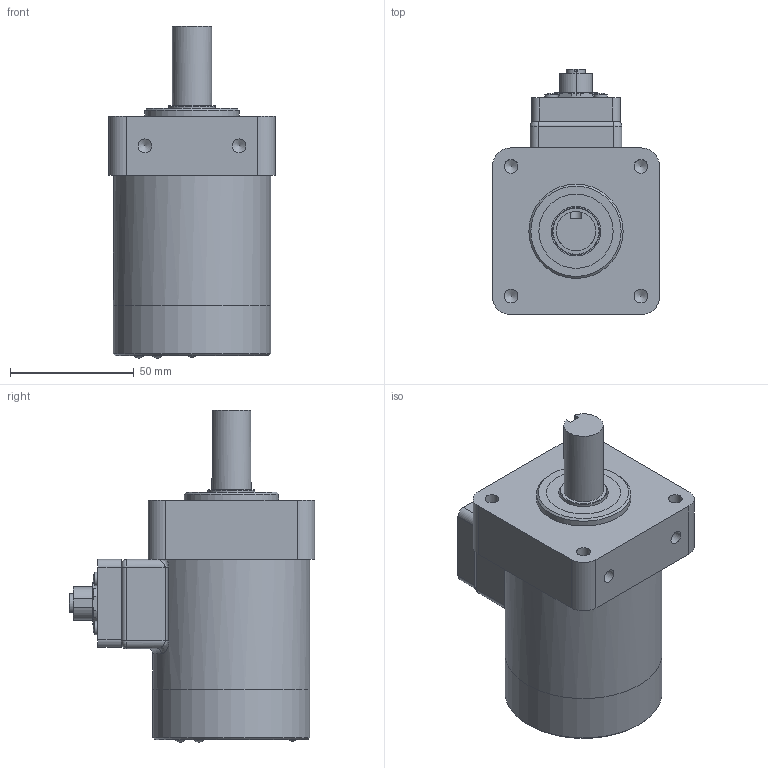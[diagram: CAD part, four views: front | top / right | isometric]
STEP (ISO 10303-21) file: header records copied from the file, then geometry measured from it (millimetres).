
FILE_DESCRIPTION(/* description */ ('Alibre Inc.'),/* implementation_level */ '2;1');
FILE_NAME(/* name */ 'export0',/* time_stamp */ '2010-05-25T09:13:02-04:00',/* author */ (''),/* organization */ (''),/* preprocessor_version */ 'ST-DEVELOPER v10',/* originating_system */ 'Alibre',/* authorisation */ '');
FILE_SCHEMA (('CONFIG_CONTROL_DESIGN'));
Length unit declared in the file: centimetre
Products named in the file (15): ID_1; ID_2; ID_3; ID_4; ID_5; ID_6; ID_7; ID_8; ID_9; ID_10; ID_11
Bounding box: 67.3 x 99.12 x 134.12 mm (x, y, z)
Volume: 368808.2 mm3; surface area: 67394.6 mm2
Topology: 15 solids, 15 shells, 350 faces, 777 edges, 500 vertices
Faces by surface type: plane 115, cylinder 109, bspline 72, cone 42, torus 8, sphere 4
Full cylindrical faces by diameter (mm): 2.87 x4, 2.92 x2, 3 x21, 3.96 x4, 5.44 x4, 5.524 x6, 11.5 x1, 15.85 x1, 19 x1, 20 x3, 24 x2, 30 x2, 38.1 x1, 42 x2, 58.72 x2, 63.5 x2
Entity records: 9769 total; most frequent: CARTESIAN_POINT 2462, DIRECTION 1158, ORIENTED_EDGE 1056, AXIS2_PLACEMENT_3D 537, EDGE_CURVE 528, FACE_BOUND 401, EDGE_LOOP 395, VERTEX_POINT 379
